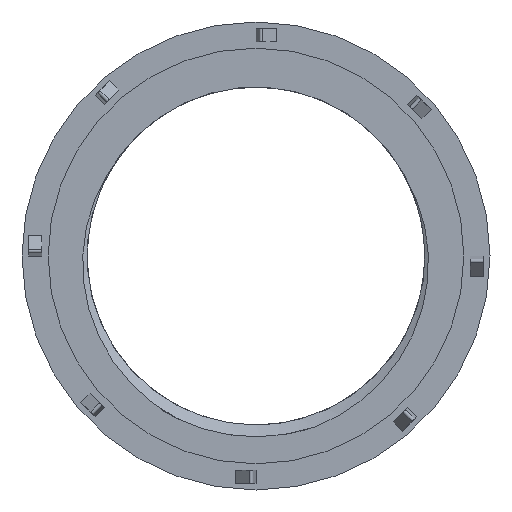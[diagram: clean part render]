
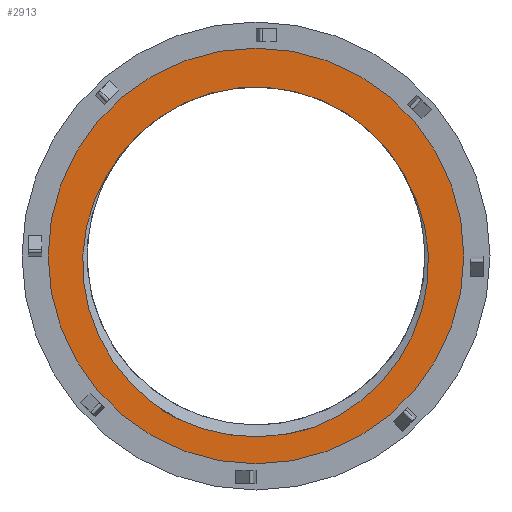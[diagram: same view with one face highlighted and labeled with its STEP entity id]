
A CAD part, left-side view. The second image highlights one B-rep face of the part: STEP entity #2913.
In plain terms, the highlighted planar face has unit normal (-1, 0, 0).
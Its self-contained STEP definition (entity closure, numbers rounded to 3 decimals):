
#637=CARTESIAN_POINT('',(1.59,-9.024,5.016));
#734=CARTESIAN_POINT('',(1.59,0.,0.));
#735=DIRECTION('',(1.,0.,0.));
#736=DIRECTION('',(0.,0.806,0.592));
#737=AXIS2_PLACEMENT_3D('',#734,#735,#736);
#832=CARTESIAN_POINT('',(1.59,4.865,-9.919));
#833=CARTESIAN_POINT('',(1.59,5.131,-9.776));
#834=CARTESIAN_POINT('',(1.59,5.647,-9.47));
#835=CARTESIAN_POINT('',(1.59,6.375,-8.955));
#836=CARTESIAN_POINT('',(1.59,7.066,-8.376));
#837=CARTESIAN_POINT('',(1.59,7.752,-7.698));
#838=CARTESIAN_POINT('',(1.59,8.442,-6.878));
#839=CARTESIAN_POINT('',(1.59,9.103,-5.9));
#840=CARTESIAN_POINT('',(1.59,9.677,-4.799));
#841=CARTESIAN_POINT('',(1.59,10.144,-3.574));
#842=CARTESIAN_POINT('',(1.59,10.469,-2.236));
#843=CARTESIAN_POINT('',(1.59,10.619,-0.822));
#844=CARTESIAN_POINT('',(1.59,10.576,0.669));
#845=CARTESIAN_POINT('',(1.59,10.311,2.174));
#846=CARTESIAN_POINT('',(1.59,9.838,3.602));
#847=CARTESIAN_POINT('',(1.59,9.175,4.936));
#848=CARTESIAN_POINT('',(1.59,8.623,5.736));
#849=CARTESIAN_POINT('',(1.59,8.318,6.116));
#851=CARTESIAN_POINT('',(1.59,-3.583,-10.451));
#852=CARTESIAN_POINT('',(1.59,-3.243,-10.567));
#853=CARTESIAN_POINT('',(1.59,-2.548,-10.768));
#854=CARTESIAN_POINT('',(1.59,-1.464,-10.969));
#855=CARTESIAN_POINT('',(1.59,-0.318,-11.063));
#856=CARTESIAN_POINT('',(1.59,0.893,-11.035));
#857=CARTESIAN_POINT('',(1.59,2.183,-10.859));
#858=CARTESIAN_POINT('',(1.59,3.541,-10.497));
#859=CARTESIAN_POINT('',(1.59,4.425,-10.135));
#860=CARTESIAN_POINT('',(1.59,4.865,-9.919));
#862=CARTESIAN_POINT('',(1.59,-9.024,5.016));
#863=CARTESIAN_POINT('',(1.59,-9.215,4.705));
#864=CARTESIAN_POINT('',(1.59,-9.568,4.051));
#865=CARTESIAN_POINT('',(1.59,-9.998,2.994));
#866=CARTESIAN_POINT('',(1.59,-10.339,1.782));
#867=CARTESIAN_POINT('',(1.59,-10.539,0.439));
#868=CARTESIAN_POINT('',(1.59,-10.559,-0.952));
#869=CARTESIAN_POINT('',(1.59,-10.4,-2.31));
#870=CARTESIAN_POINT('',(1.59,-10.073,-3.631));
#871=CARTESIAN_POINT('',(1.59,-9.575,-4.91));
#872=CARTESIAN_POINT('',(1.59,-8.913,-6.123));
#873=CARTESIAN_POINT('',(1.59,-8.105,-7.236));
#874=CARTESIAN_POINT('',(1.59,-7.164,-8.239));
#875=CARTESIAN_POINT('',(1.59,-6.101,-9.116));
#876=CARTESIAN_POINT('',(1.59,-4.915,-9.866));
#877=CARTESIAN_POINT('',(1.59,-4.042,-10.274));
#878=CARTESIAN_POINT('',(1.59,-3.583,-10.451));
#880=CARTESIAN_POINT('',(1.59,0.,0.));
#881=DIRECTION('',(-1.,0.,0.));
#882=DIRECTION('',(0.,0.,-1.));
#883=AXIS2_PLACEMENT_3D('',#880,#881,#882);
#889=CARTESIAN_POINT('',(1.59,0.,0.));
#890=DIRECTION('',(1.,0.,0.));
#891=DIRECTION('',(0.,0.,-1.));
#892=AXIS2_PLACEMENT_3D('',#889,#890,#891);
#1414=CARTESIAN_POINT('',(1.59,0.,-12.7));
#1415=CARTESIAN_POINT('',(1.59,0.,12.7));
#1416=VERTEX_POINT('',#1414);
#1417=VERTEX_POINT('',#1415);
#1424=VERTEX_POINT('',#851);
#1425=VERTEX_POINT('',#860);
#1679=VERTEX_POINT('',#637);
#1680=VERTEX_POINT('',#849);
#2896=CARTESIAN_POINT('',(1.59,0.,0.));
#2897=DIRECTION('',(-1.,0.,0.));
#2898=DIRECTION('',(0.,0.,-1.));
#2899=AXIS2_PLACEMENT_3D('',#2896,#2897,#2898);
#2900=PLANE('',#2899);
#2902=ORIENTED_EDGE('',*,*,#2901,.F.);
#2904=ORIENTED_EDGE('',*,*,#2903,.T.);
#2905=EDGE_LOOP('',(#2902,#2904));
#2906=FACE_OUTER_BOUND('',#2905,.F.);
#2907=ORIENTED_EDGE('',*,*,#2499,.F.);
#2908=ORIENTED_EDGE('',*,*,#2699,.F.);
#2909=ORIENTED_EDGE('',*,*,#2890,.F.);
#2910=ORIENTED_EDGE('',*,*,#2471,.F.);
#2911=EDGE_LOOP('',(#2907,#2908,#2909,#2910));
#2912=FACE_BOUND('',#2911,.F.);
#2913=ADVANCED_FACE('',(#2906,#2912),#2900,.T.);
#738=CIRCLE('',#737,10.325);
#850=B_SPLINE_CURVE_WITH_KNOTS('',3,(#832,#833,#834,#835,#836,#837,#838,#839,
#840,#841,#842,#843,#844,#845,#846,#847,#848,#849),.UNSPECIFIED.,.F.,.F.,(4,1,1,
1,1,1,1,1,1,1,1,1,1,1,1,4),(0.,0.067,0.133,0.2,
0.267,0.333,0.4,0.467,0.533,
0.6,0.667,0.733,0.8,0.867,
0.933,1.),.UNSPECIFIED.);
#861=B_SPLINE_CURVE_WITH_KNOTS('',3,(#851,#852,#853,#854,#855,#856,#857,#858,
#859,#860),.UNSPECIFIED.,.F.,.F.,(4,1,1,1,1,1,1,4),(0.,0.143,
0.286,0.429,0.571,0.714,
0.857,1.),.UNSPECIFIED.);
#879=B_SPLINE_CURVE_WITH_KNOTS('',3,(#862,#863,#864,#865,#866,#867,#868,#869,
#870,#871,#872,#873,#874,#875,#876,#877,#878),.UNSPECIFIED.,.F.,.F.,(4,1,1,1,1,
1,1,1,1,1,1,1,1,1,4),(0.,0.071,0.143,
0.214,0.286,0.357,0.429,0.5,
0.571,0.643,0.714,0.786,
0.857,0.929,1.),.UNSPECIFIED.);
#884=CIRCLE('',#883,12.7);
#893=CIRCLE('',#892,12.7);
#2471=EDGE_CURVE('',#1679,#1424,#879,.T.);
#2499=EDGE_CURVE('',#1680,#1679,#738,.T.);
#2699=EDGE_CURVE('',#1425,#1680,#850,.T.);
#2890=EDGE_CURVE('',#1424,#1425,#861,.T.);
#2901=EDGE_CURVE('',#1416,#1417,#884,.T.);
#2903=EDGE_CURVE('',#1416,#1417,#893,.T.);
